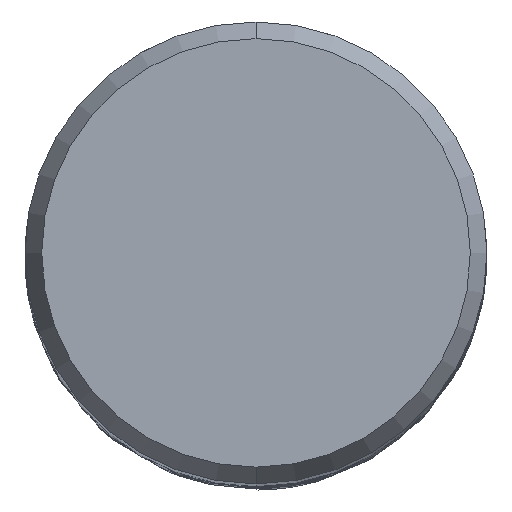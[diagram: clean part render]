
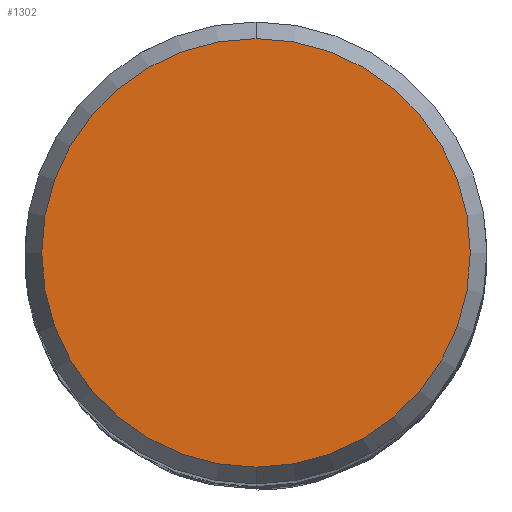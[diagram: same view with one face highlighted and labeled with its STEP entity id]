
A CAD part, top view. The second image highlights one B-rep face of the part: STEP entity #1302.
In plain terms, the highlighted planar face has unit normal (0, 0, 1).
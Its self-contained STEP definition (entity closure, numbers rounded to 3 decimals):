
#814=VERTEX_POINT('',#2310);
#1010=EDGE_CURVE('',#1158,#814,#2521,.T.);
#1158=VERTEX_POINT('',#2684);
#1302=ADVANCED_FACE('',(#2846),#2847,.T.);
#1556=EDGE_CURVE('',#814,#1158,#3117,.T.);
#2310=CARTESIAN_POINT('',(0.,-7.423,0.0));
#2521=CIRCLE('',#6800,7.423);
#2684=CARTESIAN_POINT('',(0.0,7.423,0.0));
#2846=FACE_OUTER_BOUND('',#12253,.T.);
#2847=PLANE('',#12254);
#3117=CIRCLE('',#14969,7.423);
#6800=AXIS2_PLACEMENT_3D('',#24260,#24261,#24262);
#12253=EDGE_LOOP('',(#24618,#24619));
#12254=AXIS2_PLACEMENT_3D('',#24620,#24621,#24622);
#14969=AXIS2_PLACEMENT_3D('',#24830,#24831,#24832);
#24260=CARTESIAN_POINT('',(0.0,0.0,0.0));
#24261=DIRECTION('',(0.0,0.0,-1.0));
#24262=DIRECTION('',(0.0,1.0,0.0));
#24618=ORIENTED_EDGE('',*,*,#1010,.F.);
#24619=ORIENTED_EDGE('',*,*,#1556,.F.);
#24620=CARTESIAN_POINT('',(0.0,3.711,0.0));
#24621=DIRECTION('',(-0.0,0.0,1.0));
#24622=DIRECTION('',(0.0,-1.0,0.0));
#24830=CARTESIAN_POINT('',(0.0,0.0,0.0));
#24831=DIRECTION('',(0.0,0.0,-1.0));
#24832=DIRECTION('',(0.0,1.0,0.0));
